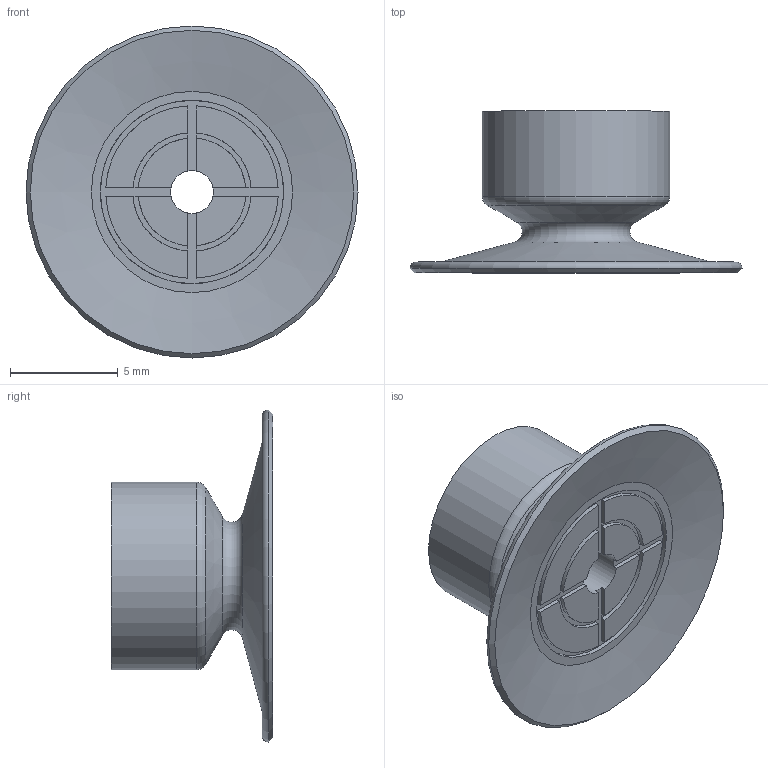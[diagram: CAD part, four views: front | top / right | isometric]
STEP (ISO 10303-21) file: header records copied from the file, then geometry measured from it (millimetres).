
FILE_DESCRIPTION(('STEP AP203'),'1');
FILE_NAME('_3D.stp','2024-06-11T23:06:53',(' '),(' '),'Spatial InterOp 3D',' ',' ');
FILE_SCHEMA(('CONFIG_CONTROL_DESIGN'));
Length unit declared in the file: millimetre
Products named in the file (1): 1
Bounding box: 15.4 x 7.5 x 15.4 mm (x, y, z)
Volume: 306 mm3; surface area: 721 mm2
Topology: 1 solids, 1 shells, 61 faces, 148 edges, 91 vertices
Faces by surface type: plane 24, cylinder 17, cone 13, torus 7
Full cylindrical faces by diameter (mm): 2 x1, 4 x1, 6 x1, 8.5 x1, 8.7 x1
Entity records: 1812 total; most frequent: CARTESIAN_POINT 547, ORIENTED_EDGE 248, DIRECTION 224, EDGE_CURVE 124, AXIS2_PLACEMENT_3D 97, VERTEX_POINT 84, EDGE_LOOP 82, FACE_OUTER_BOUND 73
